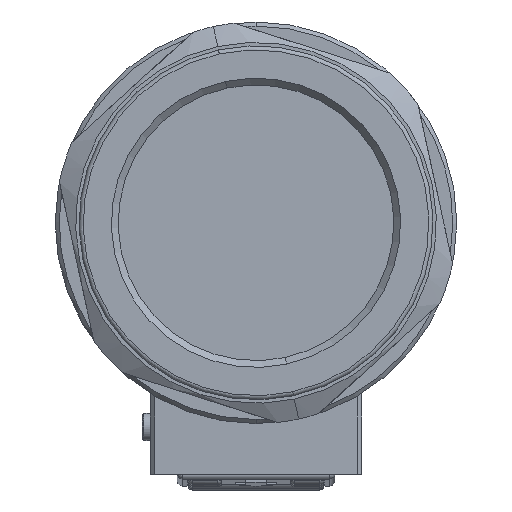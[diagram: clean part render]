
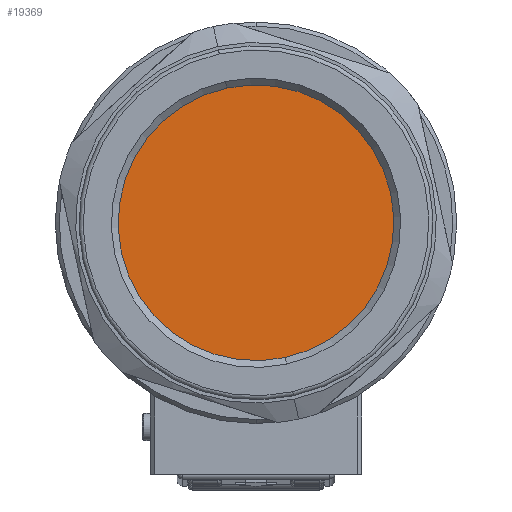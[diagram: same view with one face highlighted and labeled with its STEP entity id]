
A CAD part, front view. The second image highlights one B-rep face of the part: STEP entity #19369.
In plain terms, the highlighted planar face has unit normal (0, -1, 0).
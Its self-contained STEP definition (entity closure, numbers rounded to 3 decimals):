
#1177 = ORIENTED_EDGE ( 'NONE', *, *, #7342, .F. ) ;
#1501 = CARTESIAN_POINT ( 'NONE',  ( -3.131, -40.504, 14.414 ) ) ;
#2891 = CARTESIAN_POINT ( 'NONE',  ( 0., -40.504, 0. ) ) ;
#3837 = CARTESIAN_POINT ( 'NONE',  ( 0., -40.504, 0. ) ) ;
#3927 = VERTEX_POINT ( 'NONE', #18095 ) ;
#4495 = DIRECTION ( 'NONE',  ( 0., 0., -1. ) ) ;
#5442 = DIRECTION ( 'NONE',  ( 0., 0., -1. ) ) ;
#7342 = EDGE_CURVE ( 'NONE', #3927, #14429, #12120, .T. ) ;
#7448 = CIRCLE ( 'NONE', #12065, 10.125 ) ;
#7791 = ORIENTED_EDGE ( 'NONE', *, *, #12505, .F. ) ;
#7936 = PLANE ( 'NONE',  #12304 ) ;
#9564 = DIRECTION ( 'NONE',  ( -0.212, 0., 0.977 ) ) ;
#10162 = CARTESIAN_POINT ( 'NONE',  ( -2.15, -40.504, 9.894 ) ) ;
#12065 = AXIS2_PLACEMENT_3D ( 'NONE', #3837, #14993, #5442 ) ;
#12120 = CIRCLE ( 'NONE', #16654, 10.125 ) ;
#12304 = AXIS2_PLACEMENT_3D ( 'NONE', #1501, #18962, #9564 ) ;
#12505 = EDGE_CURVE ( 'NONE', #14429, #3927, #7448, .T. ) ;
#14124 = DIRECTION ( 'NONE',  ( 0., 1., 0. ) ) ;
#14429 = VERTEX_POINT ( 'NONE', #10162 ) ;
#14993 = DIRECTION ( 'NONE',  ( 0., 1., 0. ) ) ;
#16654 = AXIS2_PLACEMENT_3D ( 'NONE', #2891, #14124, #4495 ) ;
#17663 = FACE_OUTER_BOUND ( 'NONE', #18368, .T. ) ;
#18095 = CARTESIAN_POINT ( 'NONE',  ( 2.15, -40.504, -9.894 ) ) ;
#18368 = EDGE_LOOP ( 'NONE', ( #7791, #1177 ) ) ;
#18962 = DIRECTION ( 'NONE',  ( 0., -1., 0. ) ) ;
#19369 = ADVANCED_FACE ( 'NONE', ( #17663 ), #7936, .T. ) ;
